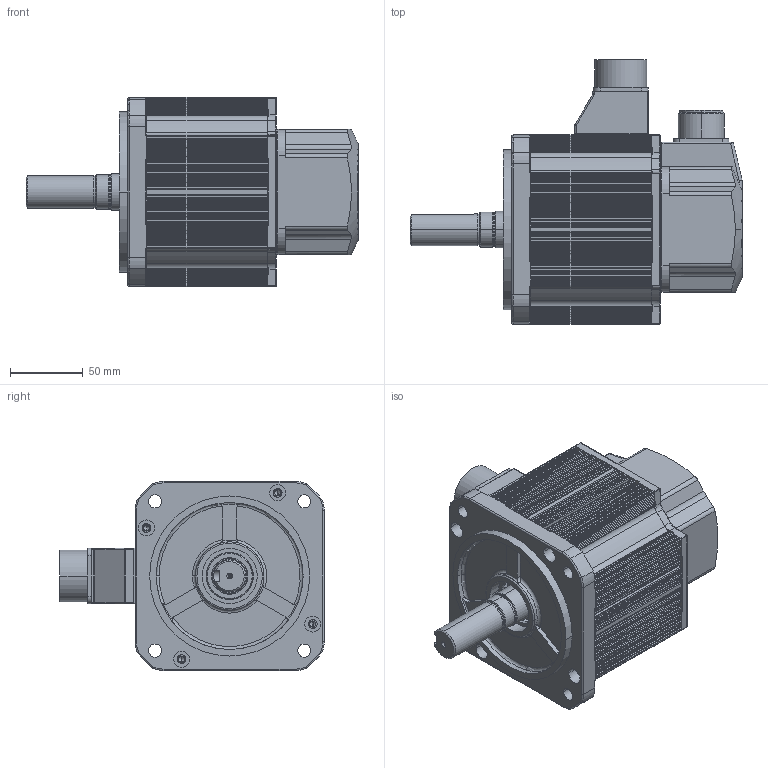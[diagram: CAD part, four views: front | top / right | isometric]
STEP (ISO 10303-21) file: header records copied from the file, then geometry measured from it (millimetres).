
FILE_DESCRIPTION (( 'STEP AP203' ), '1' );
FILE_NAME ('KANH-05B(NB).STEP', '2026-09-12T02:53:55', ( '' ), ( '' ), 'SwSTEP 2.0', 'SolidWorks 2023', '' );
FILE_SCHEMA (( 'CONFIG_CONTROL_DESIGN' ));
Length unit declared in the file: millimetre
Products named in the file (11): KANH-05B(NB); 10050579 CONNECTOR BOX_MS20; □130 FLANGE; 1005052200 ENCODER COVER; □130 BRACKET_BR; □130-86.0mm(0.5kW,NB,MS20); MS3102A 20_표준; MS3102A 20-29P; 10050523 GASKET_돌출형; 10050511 RUBBER SEAL_MS20; Ø22-KEY8X41
Assembly tree (10 placements, depth 2):
  KANH-05B(NB)
    Ø22-KEY8X41
    □130 FLANGE
    □130-86.0mm(0.5kW,NB,MS20)
    □130 BRACKET_BR
    10050511 RUBBER SEAL_MS20
    10050579 CONNECTOR BOX_MS20
    MS3102A 20_표준
    MS3102A 20-29P
    1005052200 ENCODER COVER
    10050523 GASKET_돌출형
Bounding box: 228.2 x 181.75 x 130 mm (x, y, z)
Volume: 594017 mm3; surface area: 307097.1 mm2
Topology: 10 solids, 10 shells, 2491 faces, 6891 edges, 4455 vertices
Faces by surface type: plane 1171, cylinder 986, torus 185, bspline 83, cone 56, sphere 10
Entity records: 84366 total; most frequent: CARTESIAN_POINT 18672, DIRECTION 13678, ORIENTED_EDGE 13654, EDGE_CURVE 6827, AXIS2_PLACEMENT_3D 4817, VERTEX_POINT 4455, LINE 4044, VECTOR 4044
